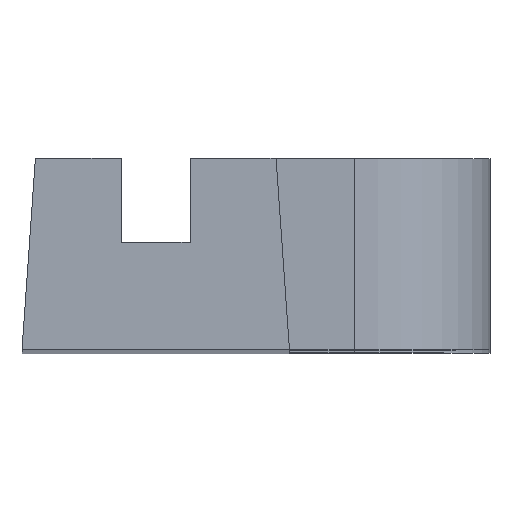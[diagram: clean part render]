
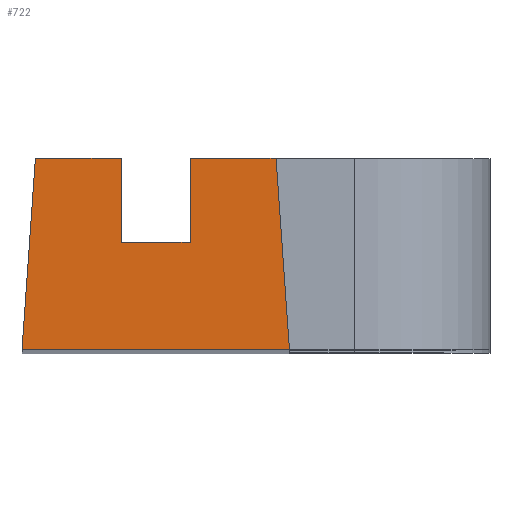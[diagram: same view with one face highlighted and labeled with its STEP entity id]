
A CAD part, top view. The second image highlights one B-rep face of the part: STEP entity #722.
In plain terms, the highlighted planar face has unit normal (0, 0, 1).
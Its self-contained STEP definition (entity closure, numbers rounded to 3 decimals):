
#124=FACE_OUTER_BOUND('',#164,.T.);
#164=EDGE_LOOP('',(#651,#652,#653,#654,#655,#656,#657,#658));
#225=LINE('',#1104,#307);
#235=LINE('',#1124,#317);
#237=LINE('',#1128,#319);
#239=LINE('',#1132,#321);
#241=LINE('',#1136,#323);
#243=LINE('',#1139,#325);
#244=LINE('',#1142,#326);
#246=LINE('',#1145,#328);
#307=VECTOR('',#916,10.);
#317=VECTOR('',#930,10.);
#319=VECTOR('',#934,10.);
#321=VECTOR('',#938,10.);
#323=VECTOR('',#942,10.);
#325=VECTOR('',#946,10.);
#326=VECTOR('',#949,10.);
#328=VECTOR('',#953,10.);
#375=VERTEX_POINT('',#1101);
#376=VERTEX_POINT('',#1103);
#383=VERTEX_POINT('',#1121);
#384=VERTEX_POINT('',#1123);
#385=VERTEX_POINT('',#1127);
#386=VERTEX_POINT('',#1131);
#387=VERTEX_POINT('',#1135);
#388=VERTEX_POINT('',#1141);
#457=EDGE_CURVE('',#376,#375,#225,.T.);
#467=EDGE_CURVE('',#384,#383,#235,.T.);
#469=EDGE_CURVE('',#385,#384,#237,.T.);
#471=EDGE_CURVE('',#386,#385,#239,.T.);
#473=EDGE_CURVE('',#387,#386,#241,.T.);
#475=EDGE_CURVE('',#375,#387,#243,.T.);
#476=EDGE_CURVE('',#388,#376,#244,.T.);
#478=EDGE_CURVE('',#383,#388,#246,.T.);
#651=ORIENTED_EDGE('',*,*,#478,.T.);
#652=ORIENTED_EDGE('',*,*,#476,.T.);
#653=ORIENTED_EDGE('',*,*,#457,.T.);
#654=ORIENTED_EDGE('',*,*,#475,.T.);
#655=ORIENTED_EDGE('',*,*,#473,.T.);
#656=ORIENTED_EDGE('',*,*,#471,.T.);
#657=ORIENTED_EDGE('',*,*,#469,.T.);
#658=ORIENTED_EDGE('',*,*,#467,.T.);
#688=PLANE('',#784);
#722=ADVANCED_FACE('',(#124),#688,.T.);
#784=AXIS2_PLACEMENT_3D('',#1146,#954,#955);
#916=DIRECTION('',(-0.07,0.998,0.));
#930=DIRECTION('',(-1.,0.,0.));
#934=DIRECTION('',(0.,1.,0.));
#938=DIRECTION('',(-1.,0.,0.));
#942=DIRECTION('',(0.,-1.,0.));
#946=DIRECTION('',(-1.,0.,0.));
#949=DIRECTION('',(1.,0.,0.));
#953=DIRECTION('',(-0.07,-0.998,0.));
#954=DIRECTION('center_axis',(0.,0.,1.));
#955=DIRECTION('ref_axis',(1.,0.,0.));
#1101=CARTESIAN_POINT('',(3.15,2.2,31.1));
#1103=CARTESIAN_POINT('',(3.5,-2.8,31.1));
#1104=CARTESIAN_POINT('',(3.5,-2.8,31.1));
#1121=CARTESIAN_POINT('',(-3.15,2.2,31.1));
#1123=CARTESIAN_POINT('',(-0.9,2.2,31.1));
#1124=CARTESIAN_POINT('',(-0.9,2.2,31.1));
#1127=CARTESIAN_POINT('',(-0.9,0.,31.1));
#1128=CARTESIAN_POINT('',(-0.9,0.,31.1));
#1131=CARTESIAN_POINT('',(0.9,0.,31.1));
#1132=CARTESIAN_POINT('',(0.9,0.,31.1));
#1135=CARTESIAN_POINT('',(0.9,2.2,31.1));
#1136=CARTESIAN_POINT('',(0.9,2.2,31.1));
#1139=CARTESIAN_POINT('',(3.15,2.2,31.1));
#1141=CARTESIAN_POINT('',(-3.5,-2.8,31.1));
#1142=CARTESIAN_POINT('',(-3.5,-2.8,31.1));
#1145=CARTESIAN_POINT('',(-3.15,2.2,31.1));
#1146=CARTESIAN_POINT('Origin',(0.,-0.3,31.1));
